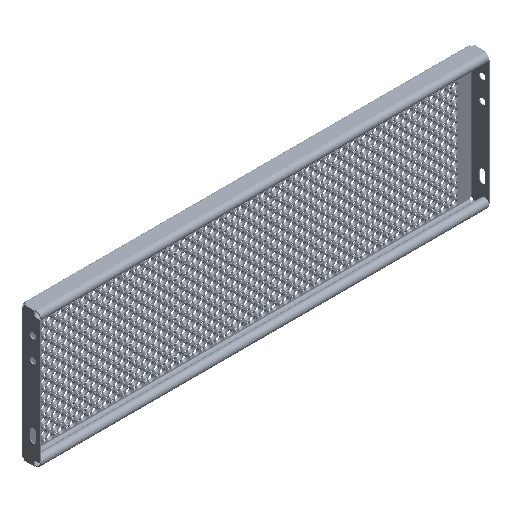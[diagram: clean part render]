
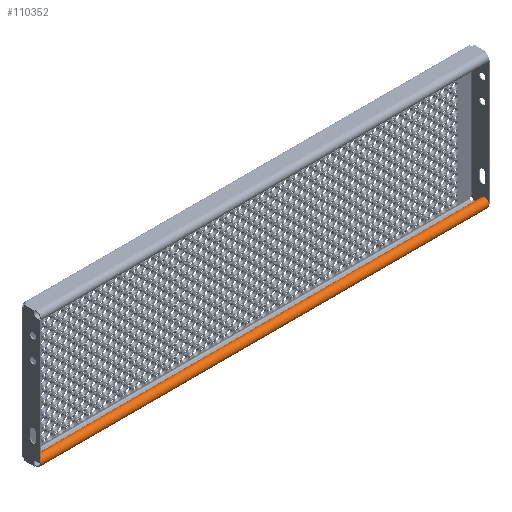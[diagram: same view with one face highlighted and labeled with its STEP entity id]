
A CAD part, isometric view. The second image highlights one B-rep face of the part: STEP entity #110352.
In plain terms, the highlighted cylindrical face has radius 10 mm (diameter 20 mm), a partial arc.
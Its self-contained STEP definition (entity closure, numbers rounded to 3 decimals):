
#2107 = CARTESIAN_POINT ( 'NONE',  ( -497.99, -24.337, -146.428 ) ) ;
#5495 = CIRCLE ( 'NONE', #41321, 10. ) ;
#9384 = CYLINDRICAL_SURFACE ( 'NONE', #532740, 10. ) ;
#17601 = DIRECTION ( 'NONE',  ( 1., 0., 0. ) ) ;
#41321 = AXIS2_PLACEMENT_3D ( 'NONE', #548955, #211875, #80926 ) ;
#50687 = VERTEX_POINT ( 'NONE', #2107 ) ;
#51127 = LINE ( 'NONE', #221155, #522500 ) ;
#72230 = EDGE_CURVE ( 'NONE', #78672, #381224, #5495, .T. ) ;
#78672 = VERTEX_POINT ( 'NONE', #143439 ) ;
#80926 = DIRECTION ( 'NONE',  ( 0., 1., 0. ) ) ;
#93892 = VERTEX_POINT ( 'NONE', #527885 ) ;
#101603 = ORIENTED_EDGE ( 'NONE', *, *, #169532, .F. ) ;
#110352 = ADVANCED_FACE ( 'NONE', ( #268492 ), #9384, .T. ) ;
#143439 = CARTESIAN_POINT ( 'NONE',  ( 497.99, -24.337, -146.428 ) ) ;
#153770 = DIRECTION ( 'NONE',  ( 1., 0., 0. ) ) ;
#169532 = EDGE_CURVE ( 'NONE', #50687, #78672, #446345, .T. ) ;
#178611 = ORIENTED_EDGE ( 'NONE', *, *, #72230, .F. ) ;
#204931 = ORIENTED_EDGE ( 'NONE', *, *, #225397, .F. ) ;
#211875 = DIRECTION ( 'NONE',  ( 1., 0., 0. ) ) ;
#215691 = DIRECTION ( 'NONE',  ( -1., 0., 0. ) ) ;
#221155 = CARTESIAN_POINT ( 'NONE',  ( 497.99, -31.998, -150. ) ) ;
#225397 = EDGE_CURVE ( 'NONE', #93892, #50687, #522534, .T. ) ;
#226721 = DIRECTION ( 'NONE',  ( 0., 0.766, -0.643 ) ) ;
#245238 = CARTESIAN_POINT ( 'NONE',  ( 497.99, -31.998, -150. ) ) ;
#268492 = FACE_OUTER_BOUND ( 'NONE', #460421, .T. ) ;
#307615 = CARTESIAN_POINT ( 'NONE',  ( 497.99, -31.998, -140. ) ) ;
#324850 = DIRECTION ( 'NONE',  ( -1., 0., 0. ) ) ;
#327540 = DIRECTION ( 'NONE',  ( 0., 1., 0. ) ) ;
#368604 = EDGE_CURVE ( 'NONE', #381224, #93892, #51127, .T. ) ;
#381224 = VERTEX_POINT ( 'NONE', #245238 ) ;
#408415 = CARTESIAN_POINT ( 'NONE',  ( -497.99, -31.998, -140. ) ) ;
#446345 = LINE ( 'NONE', #493643, #451150 ) ;
#451150 = VECTOR ( 'NONE', #153770, 1000. ) ;
#460421 = EDGE_LOOP ( 'NONE', ( #548673, #178611, #101603, #204931 ) ) ;
#493643 = CARTESIAN_POINT ( 'NONE',  ( 497.99, -24.337, -146.428 ) ) ;
#522500 = VECTOR ( 'NONE', #215691, 1000. ) ;
#522534 = CIRCLE ( 'NONE', #540407, 10. ) ;
#527885 = CARTESIAN_POINT ( 'NONE',  ( -497.99, -31.998, -150. ) ) ;
#532740 = AXIS2_PLACEMENT_3D ( 'NONE', #307615, #17601, #226721 ) ;
#540407 = AXIS2_PLACEMENT_3D ( 'NONE', #408415, #324850, #327540 ) ;
#548673 = ORIENTED_EDGE ( 'NONE', *, *, #368604, .F. ) ;
#548955 = CARTESIAN_POINT ( 'NONE',  ( 497.99, -31.998, -140. ) ) ;
